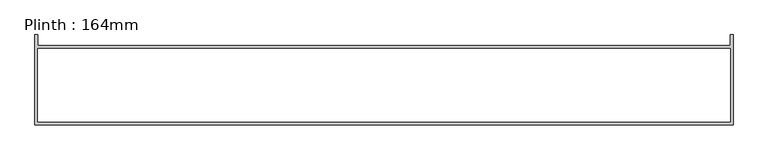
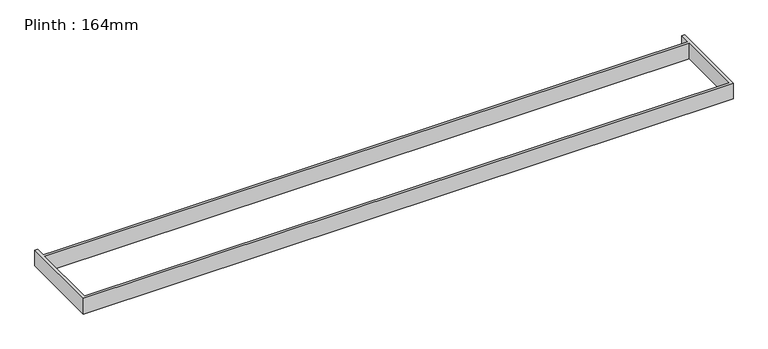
"""IFC4 building model written with IfcOpenShell, lengths in millimetres: furniture geometry, Plinth : 164mm."""

from ifc_helpers import new_model, si_unit, origin, origin_with_axes, place, context, project, spatial, polyline, outline, extrude, source, transform, mapped, element, save


def plinth_164mm_81055ff0(model_context):
    return source(origin(), model_context, "Body", "SweptSolid", [
        extrude(outline(polyline([(1994.7003264, -505.0), (-1905.2996736, -505.0), (-1905.2996736, 0.0), (-1889.2996736, 0.0), (-1889.2996736, -60.0), (-1825.2996736, -60.0), (1978.7003264, -60.0), (1978.7003264, 0.0), (1994.7003264, 0.0), (1994.7003264, -505.0)]), holes=[polyline([(1978.7003264, -76.0), (-1889.2996736, -76.0), (-1889.2996736, -489.0), (1978.7003264, -489.0), (1978.7003264, -76.0)])]), origin_with_axes(), (0.0, 0.0, 1.0), 100.0),
    ])


if __name__ == "__main__":
    model = new_model("IFC4")
    model_context = context("Model", 3, world=origin())
    ifc_project = project(units=[si_unit("LENGTHUNIT", "METRE", prefix="MILLI")], contexts=[model_context])
    site = spatial("IfcSite", under=ifc_project)
    building = spatial("IfcBuilding", under=site)
    placement = place(None, origin())
    plinth_164mm_shape = plinth_164mm_81055ff0(model_context)
    element("IfcFurniture", 1, ObjectType="Plinth : 164mm", at=placement, inside=building, context=model_context, shape_type="MappedRepresentation", body=[
        mapped(plinth_164mm_shape, transform((0.0, 0.0, 0.0), x_axis=(1.0, 0.0, 0.0), y_axis=(0.0, 1.0, 0.0), z_axis=(0.0, 0.0, 1.0))),
    ])
    save(model, "model.ifc")
